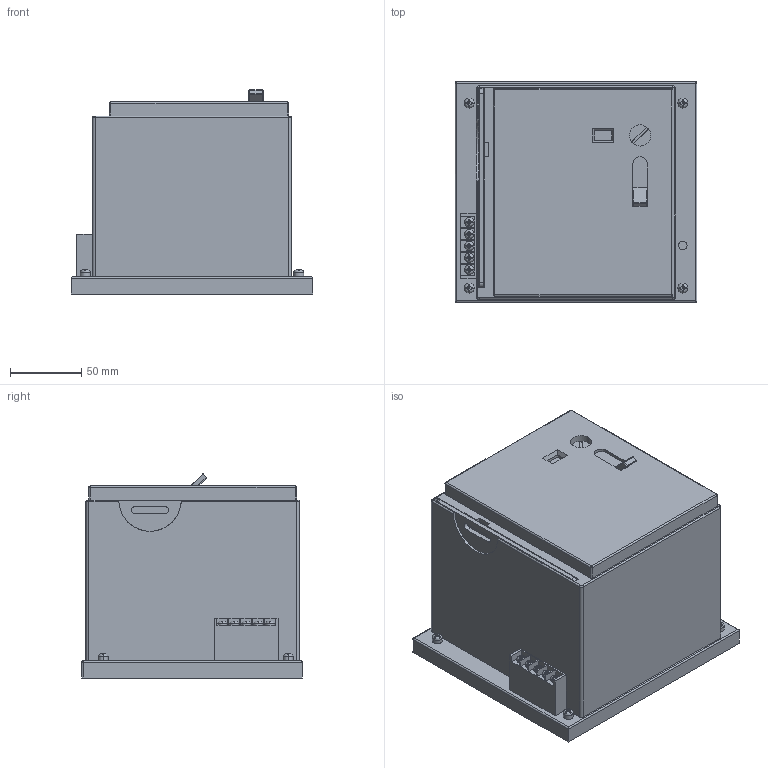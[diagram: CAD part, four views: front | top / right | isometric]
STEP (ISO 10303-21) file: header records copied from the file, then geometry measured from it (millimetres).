
FILE_DESCRIPTION (( 'STEP AP203' ), '1' );
FILE_NAME ('Ýëåêòðîïðèâîä ê ÂÀ-99 CD-99 1600À.STEP', '2018-09-04T07:34:16', ( '' ), ( '' ), 'SwSTEP 2.0', 'SolidWorks 2017', '' );
FILE_SCHEMA (( 'CONFIG_CONTROL_DESIGN' ));
Length unit declared in the file: millimetre
Products named in the file (1): Ýëåêòðîïðèâîä ê ÂÀ-99 CD-99 1600À
Bounding box: 170 x 155 x 143.4 mm (x, y, z)
Volume: 2807228 mm3; surface area: 167935.9 mm2
Topology: 1 solids, 1 shells, 421 faces, 1107 edges, 709 vertices
Faces by surface type: plane 280, cylinder 108, torus 22, sphere 11
Entity records: 13157 total; most frequent: CARTESIAN_POINT 2746, ORIENTED_EDGE 2194, DIRECTION 2078, EDGE_CURVE 1097, VERTEX_POINT 707, AXIS2_PLACEMENT_3D 695, VECTOR 688, LINE 688
